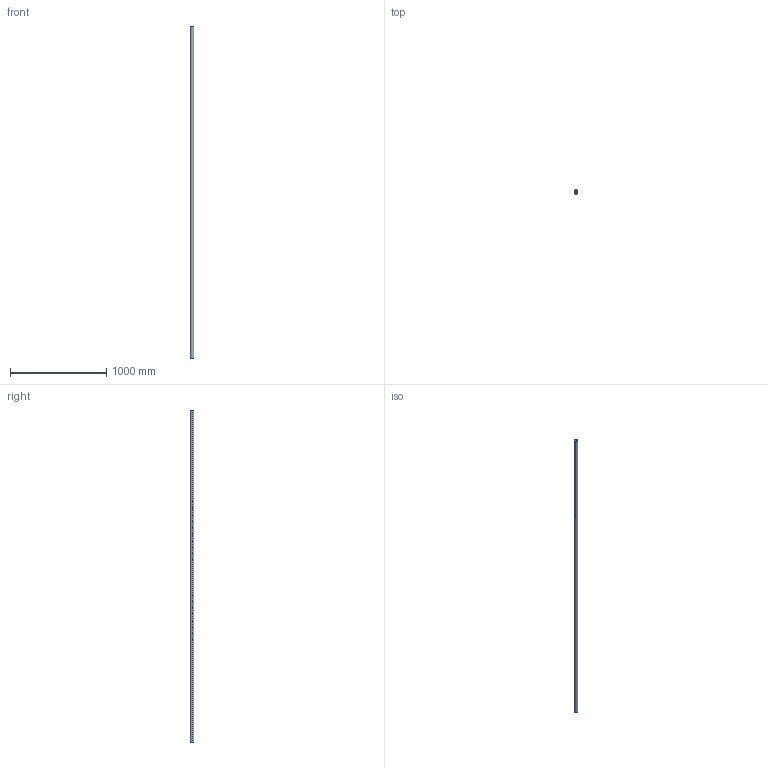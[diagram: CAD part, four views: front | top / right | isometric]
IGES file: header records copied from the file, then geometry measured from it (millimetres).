
Start section: SolidWorks IGES file using analytic representation for surfaces
Global section: file name: C:\Users\IanO\Desktop\L1771_v2\L1771.40_v2\L1771.40_v2_20230705_IGES\L1771.40-3450.igs; native system: SolidWorks 2019; preprocessor: SolidWorks 2019; author: IanO; date: 230705.161905; units: millimetre
Bounding box: 40 x 40 x 3450 mm (x, y, z)
Surface area: 738299.4 mm2 (no closed solid volume)
Topology: 0 solids, 0 shells, 6 faces, 272 edges, 272 vertices
Faces by surface type: revolution 4, bspline 2
